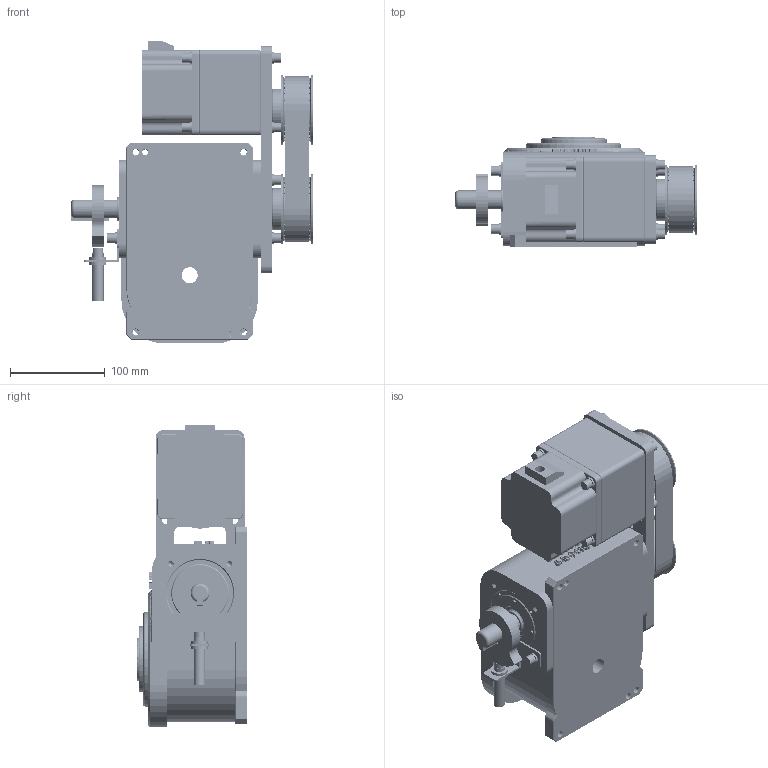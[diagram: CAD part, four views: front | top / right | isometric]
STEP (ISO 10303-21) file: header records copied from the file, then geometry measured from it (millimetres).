
FILE_DESCRIPTION (( 'STEP AP214' ), '1' );
FILE_NAME ('ER-RU70DA英锐凸轮分割器固定盘壳体法兰面销孔3D水平带轮式右侧前方ZDWS(电话15062628977)AAEE.STEP', '2022-07-18T11:21:52', ( '微软用户' ), ( '微软中国' ), 'SwSTEP 2.0', 'SolidWorks 2017', '' );
FILE_SCHEMA (( 'AUTOMOTIVE_DESIGN' ));
Length unit declared in the file: millimetre
Products named in the file (1): ER-RU70DA英锐凸轮分割器固定盘壳体法兰面销孔3D水平带轮式右侧前方ZDWS(电话15062628977)AAEE
Bounding box: 255 x 117 x 320 mm (x, y, z)
Volume: 4191931.5 mm3; surface area: 347545.5 mm2
Topology: 5 solids, 15 shells, 2414 faces, 6170 edges, 3912 vertices
Faces by surface type: cylinder 941, plane 897, bspline 357, cone 182, torus 37
Entity records: 157972 total; most frequent: CARTESIAN_POINT 82070, ORIENTED_EDGE 12244, DIRECTION 9504, EDGE_CURVE 6122, VERTEX_POINT 3912, AXIS2_PLACEMENT_3D 3233, VECTOR 3038, LINE 3038
